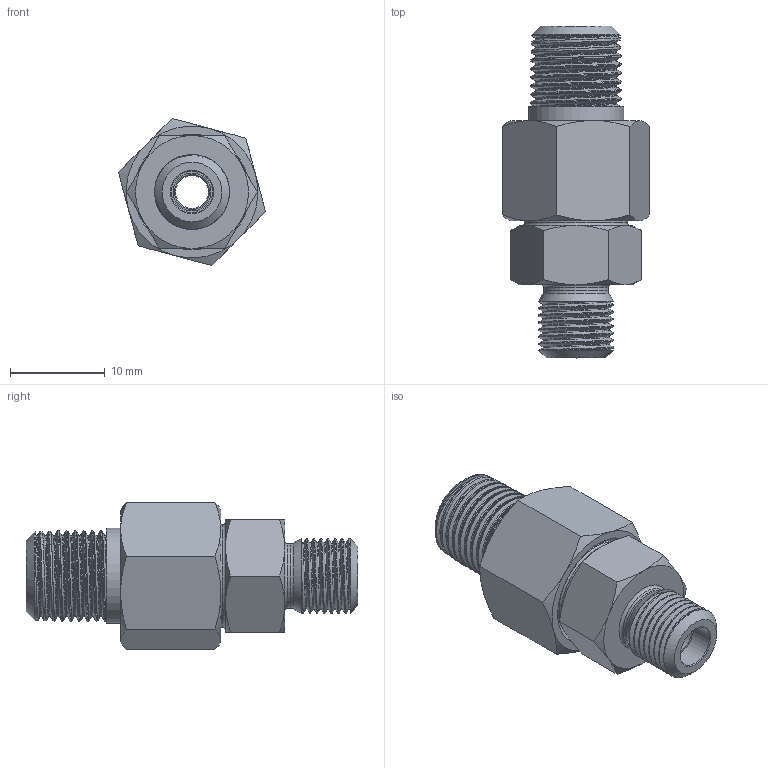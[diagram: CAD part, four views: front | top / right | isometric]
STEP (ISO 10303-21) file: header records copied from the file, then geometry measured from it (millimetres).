
FILE_DESCRIPTION(/* description */ (''),/* implementation_level */ '2;1');
FILE_NAME(/* name */ '941EK Rckschlagventil Kd.step',/* time_stamp */ '2026-03-22T15:00:59+01:00',/* author */ (''),/* organization */ (''),/* preprocessor_version */ 'ST-DEVELOPER v20.1',/* originating_system */ 'Autodesk Translation Framework v14.24.0.0',/* authorisation */ '');
FILE_SCHEMA (('AUTOMOTIVE_DESIGN { 1 0 10303 214 3 1 1 }'));
Length unit declared in the file: millimetre
Products named in the file (3): 941EK Rückschlagventil Kd; 941EK Vorne Rückschlagventil; 941EK Hinten Rückschlagventil
Assembly tree (2 placements, depth 2):
  941EK Rückschlagventil Kd
    941EK Vorne Rückschlagventil
    941EK Hinten Rückschlagventil
Bounding box: 15.56 x 35.1 x 15.56 mm (x, y, z)
Volume: 2445.8 mm3; surface area: 3487.6 mm2
Topology: 2 solids, 2 shells, 176 faces, 437 edges, 274 vertices
Faces by surface type: cylinder 62, plane 52, cone 42, bspline 12, torus 8
Full cylindrical faces by diameter (mm): 3.5 x1, 4 x1, 4.4 x1, 6 x1, 6.8 x1, 7.048 x4, 7.908 x5, 8.2 x1, 8.5 x1, 8.566 x8, 10.1 x1, 10.5 x1, 10.741 x3, 10.8 x1, 11.035 x5, 11.884 x4, 12.152 x5, 12.497 x1
Entity records: 14800 total; most frequent: CARTESIAN_POINT 10907, ORIENTED_EDGE 874, DIRECTION 693, EDGE_CURVE 437, AXIS2_PLACEMENT_3D 277, VERTEX_POINT 274, EDGE_LOOP 189, FACE_OUTER_BOUND 176
